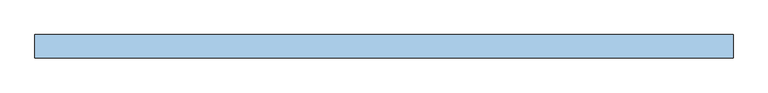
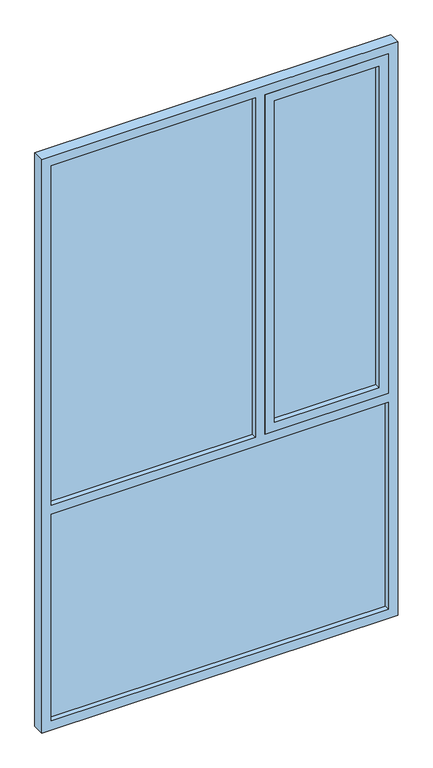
"""IFC4 building model written with IfcOpenShell, lengths in millimetres: window geometry, VENT_ALUM_PROY_ARRIBA_ABAJO FIJO COMPLETO : VD-9/ PROYECC RECAM 1.5 X 2.55."""

from ifc_helpers import new_model, si_unit, frame, origin, place, context, project, spatial, polyline, outline, extrude, source, transform, mapped, element, save


def window_40917834(model_context):
    return source(origin(), model_context, "Body", "SweptSolid", [
        extrude(outline(polyline([(3010.0, 190.0), (1500.0, 190.0), (1500.0, 710.0), (3010.0, 710.0), (3010.0, 190.0)]), holes=[polyline([(1540.0, 230.0), (2970.0, 230.0), (2970.0, 670.0), (1540.0, 670.0), (1540.0, 230.0)])]), frame((0.0, -25.0, 0.0), z_axis=(0.0, 1.0, 0.0), x_axis=(0.0, 0.0, 1.0)), (0.0, 0.0, 1.0), 50.0),
        extrude(outline(polyline([(500.0, -750.0), (500.0, 750.0), (3050.0, 750.0), (3050.0, -750.0), (500.0, -750.0)]), holes=[polyline([(1460.0, 710.0), (540.0, 710.0), (540.0, -710.0), (1460.0, -710.0), (1460.0, 710.0)]), polyline([(1500.0, 710.0), (1500.0, 190.0), (3010.0, 190.0), (3010.0, 710.0), (1500.0, 710.0)]), polyline([(1500.0, -710.0), (3010.0, -710.0), (3010.0, 150.0), (1500.0, 150.0), (1500.0, -710.0)])]), frame((0.0, -25.0, 0.0), z_axis=(0.0, 1.0, 0.0), x_axis=(0.0, 0.0, 1.0)), (0.0, 0.0, 1.0), 50.0),
        extrude(outline(polyline([(670.0, 3.0), (670.0, -3.0), (230.0, -3.0), (230.0, 3.0), (670.0, 3.0)])), frame((0.0, 0.0, 1540.0), z_axis=(0.0, 0.0, 1.0), x_axis=(1.0, 0.0, 0.0)), (0.0, 0.0, 1.0), 1430.0),
        extrude(outline(polyline([(710.0, 3.0), (710.0, -3.0), (-710.0, -3.0), (-710.0, 3.0), (710.0, 3.0)])), frame((0.0, 0.0, 540.0), z_axis=(0.0, 0.0, 1.0), x_axis=(1.0, 0.0, 0.0)), (0.0, 0.0, 1.0), 920.0),
        extrude(outline(polyline([(150.0, 3.0), (150.0, -3.0), (-710.0, -3.0), (-710.0, 3.0), (150.0, 3.0)])), frame((0.0, 0.0, 1500.0), z_axis=(0.0, 0.0, 1.0), x_axis=(1.0, 0.0, 0.0)), (0.0, 0.0, 1.0), 1510.0),
    ])


if __name__ == "__main__":
    model = new_model("IFC4")
    model_context = context("Model", 3, world=origin())
    ifc_project = project(units=[si_unit("LENGTHUNIT", "METRE", prefix="MILLI")], contexts=[model_context])
    site = spatial("IfcSite", under=ifc_project)
    building = spatial("IfcBuilding", under=site)
    placement = place(None, origin())
    window_shape = window_40917834(model_context)
    element("IfcWindow", 1, ObjectType="VENT_ALUM_PROY_ARRIBA_ABAJO FIJO COMPLETO : VD-9/ PROYECC RECAM 1.5 X 2.55", at=placement, inside=building, context=model_context, shape_type="MappedRepresentation", body=[
        mapped(window_shape, transform((0.0, 0.0, 0.0), x_axis=(1.0, 0.0, 0.0), y_axis=(0.0, 1.0, 0.0), z_axis=(0.0, 0.0, 1.0))),
    ])
    save(model, "model.ifc")
